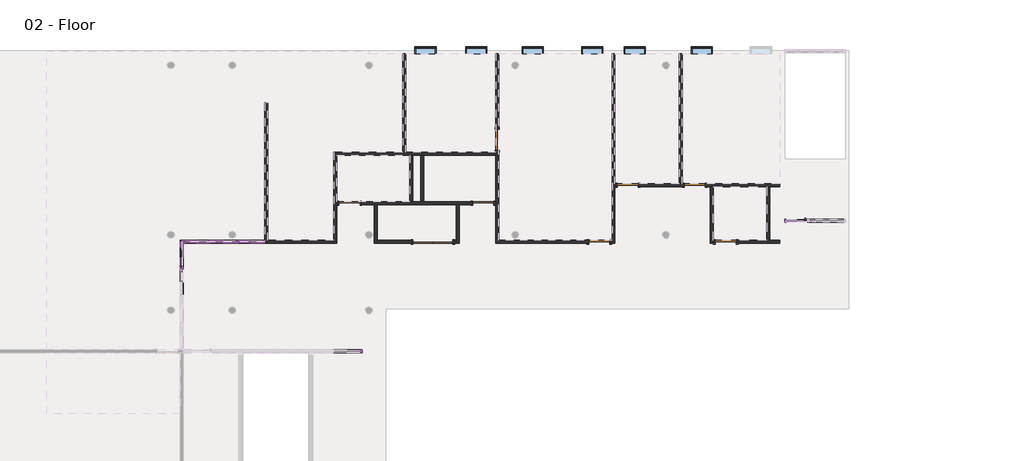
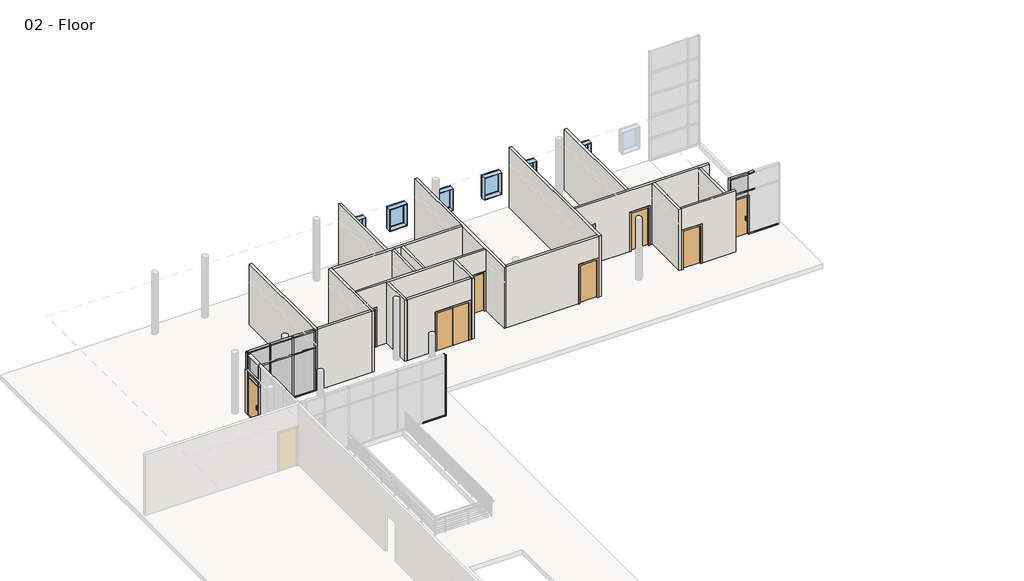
# One storey, part 3 of 5: 45 members, 19 walls, 12 plates, 10 doors, 6 windows.
"""IFC4 building model written with IfcOpenShell, lengths in millimetres."""

from ifc_helpers import new_model, si_unit, frame, origin, place, context, project, spatial, polyline, outline, extrude, faceted_brep, transform, mapped, element, save
from components import curtain_wall_sgl_glass_curtain_wall_sgl_glass_c2d4b377, curtain_wall_sgl_glass_curtain_wall_sgl_glass_8b7e7ef7, door_07ba55ef, door_a1797ceb, door_a3eb833a, member_47e31e63, member_f0fea5a5, member_ee409385, member_18e22e2d, member_9193c932, member_c617b399, member_69c8e218, member_a08f6adc, member_e80433b6, member_4904f910, member_6ef8dc49, member_309cb93c, member_6186cc23, member_410c6227, member_73c23c35, member_c327c56d, member_a50b3cda, member_bcb6a316, member_d3323a85, member_6be37683, member_5d67b9fc, member_0f16ceef, member_7712ce12, member_ba732fc4, system_panel_glazed_d847cfee, system_panel_glazed_a5fae1e5, system_panel_glazed_8c2c847a, system_panel_glazed_087d2106, system_panel_glazed_e676b032, system_panel_glazed_652e8fc4, system_panel_glazed_8dc8626f, system_panel_glazed_63e32c76, system_panel_glazed_72fe8651, system_panel_glazed_47952c94, system_panel_glazed_99e16266, window_dfee3f32

model = new_model("IFC4")

# Units and contexts
model_context = context("Model", 3, world=origin())
ifc_project = project(units=[si_unit("LENGTHUNIT", "METRE", prefix="MILLI")], contexts=[model_context])

# Site, building, storey
site = spatial("IfcSite", under=ifc_project)
building = spatial("IfcBuilding", under=site)
storey = spatial("IfcBuildingStorey", under=building, Name="02 - Floor", Elevation=3657.6)

# Doors
placement = place(None, origin())
curtain_wall_sgl_glass_curtain_wall_sgl_glass_shape = curtain_wall_sgl_glass_curtain_wall_sgl_glass_c2d4b377(model_context)
element("IfcDoor", 1, ObjectType="Curtain Wall Sgl Glass : Curtain Wall Sgl Glass", at=placement, inside=storey, context=model_context, shape_type="MappedRepresentation", body=[
    mapped(curtain_wall_sgl_glass_curtain_wall_sgl_glass_shape, transform((34925.9207476, 46523.2, 3657.6), x_axis=(-1.0, 0.0, 0.0), y_axis=(0.0, -1.0, 0.0), z_axis=(0.0, 0.0, 1.0))),
])
curtain_wall_sgl_glass_curtain_wall_sgl_glass_2_shape = curtain_wall_sgl_glass_curtain_wall_sgl_glass_8b7e7ef7(model_context)
element("IfcDoor", 2, ObjectType="Curtain Wall Sgl Glass : Curtain Wall Sgl Glass", at=placement, inside=storey, context=model_context, shape_type="MappedRepresentation", body=[
    mapped(curtain_wall_sgl_glass_curtain_wall_sgl_glass_2_shape, transform((8421.0207476, 44935.7, 3721.1), x_axis=(0.0, 1.0, 0.0), y_axis=(-1.0, 0.0, 0.0), z_axis=(0.0, 0.0, 1.0))),
])
door_shape = door_07ba55ef(model_context)
element("IfcDoor", 3, ObjectType="Double-Flush : 68\" x 84\"", at=placement, inside=storey, context=model_context, shape_type="MappedRepresentation", body=[
    mapped(door_shape, transform((19241.4207476, 45608.8, 3657.6), x_axis=(-1.0, 0.0, 0.0), y_axis=(0.0, -1.0, 0.0), z_axis=(0.0, 0.0, 1.0))),
])
door_2_shape = door_a1797ceb(model_context)
element("IfcDoor", 4, ObjectType="Single-Flush : 36\" x 84\"", at=placement, inside=storey, context=model_context, shape_type="MappedRepresentation", body=[
    mapped(door_2_shape, transform((21413.1207476, 47281.2000002, 3657.6), x_axis=(1.0, 0.0, 0.0), y_axis=(0.0, 1.0, 0.0), z_axis=(0.0, 0.0, 1.0))),
])
element("IfcDoor", 5, ObjectType="Single-Flush : 36\" x 84\"", at=placement, inside=storey, context=model_context, shape_type="MappedRepresentation", body=[
    mapped(door_2_shape, transform((26416.9207476, 45608.8, 3657.6), x_axis=(1.0, 0.0, 0.0), y_axis=(0.0, 1.0, 0.0), z_axis=(0.0, 0.0, 1.0))),
])
door_3_shape = door_a3eb833a(model_context)
element("IfcDoor", 6, ObjectType="Single-Flush : 36\" x 84\"", at=placement, inside=storey, context=model_context, shape_type="MappedRepresentation", body=[
    mapped(door_3_shape, transform((15647.3207476, 47281.2000002, 3657.6), x_axis=(-1.0, 0.0, 0.0), y_axis=(0.0, -1.0, 0.0), z_axis=(0.0, 0.0, 1.0))),
])
element("IfcDoor", 7, ObjectType="Single-Flush : 36\" x 84\"", at=placement, inside=storey, context=model_context, shape_type="MappedRepresentation", body=[
    mapped(door_3_shape, transform((22022.7207476, 50015.7, 3657.6), x_axis=(0.0, -1.0, 0.0), y_axis=(1.0, 0.0, 0.0), z_axis=(0.0, 0.0, 1.0))),
])
element("IfcDoor", 8, ObjectType="Single-Flush : 36\" x 84\"", at=placement, inside=storey, context=model_context, shape_type="MappedRepresentation", body=[
    mapped(door_3_shape, transform((27636.1207476, 48047.2, 3657.6), x_axis=(-1.0, 0.0, 0.0), y_axis=(0.0, -1.0, 0.0), z_axis=(0.0, 0.0, 1.0))),
])
element("IfcDoor", 9, ObjectType="Single-Flush : 36\" x 84\"", at=placement, inside=storey, context=model_context, shape_type="MappedRepresentation", body=[
    mapped(door_3_shape, transform((30531.7207476, 48047.2, 3657.6), x_axis=(-1.0, 0.0, 0.0), y_axis=(0.0, -1.0, 0.0), z_axis=(0.0, 0.0, 1.0))),
])
element("IfcDoor", 10, ObjectType="Single-Flush : 36\" x 84\"", at=placement, inside=storey, context=model_context, shape_type="MappedRepresentation", body=[
    mapped(door_3_shape, transform((31865.2207476, 45608.8, 3657.6), x_axis=(-1.0, 0.0, 0.0), y_axis=(0.0, -1.0, 0.0), z_axis=(0.0, 0.0, 1.0))),
])

# Members
member_shape = member_47e31e63(model_context)
element("IfcMember", 11, ObjectType="L Corner Mullion : 5\" x 5\" Corner", at=placement, inside=storey, context=model_context, shape_type="MappedRepresentation", body=[
    mapped(member_shape, transform((8421.0207476, 45608.8, 3657.6), x_axis=(-1.0, 0.0, 0.0), y_axis=(0.0, 1.0, 0.0), z_axis=(0.0, 0.0, -1.0))),
])
member_2_shape = member_f0fea5a5(model_context)
element("IfcMember", 12, ObjectType="Rectangular Mullion : 2.5\" x 5\" rectangular", at=placement, inside=storey, context=model_context, shape_type="MappedRepresentation", body=[
    mapped(member_2_shape, transform((10808.6207476, 45608.8, 3657.6), x_axis=(-1.0, 0.0, 0.0), y_axis=(0.0, 1.0, 0.0), z_axis=(0.0, 0.0, -1.0))),
])
element("IfcMember", 13, ObjectType="Rectangular Mullion : 2.5\" x 5\" rectangular", at=placement, inside=storey, context=model_context, shape_type="MappedRepresentation", body=[
    mapped(member_2_shape, transform((9614.8207476, 45608.8, 3657.6), x_axis=(-1.0, 0.0, 0.0), y_axis=(0.0, 1.0, 0.0), z_axis=(0.0, 0.0, -1.0))),
])
member_3_shape = member_ee409385(model_context)
element("IfcMember", 14, ObjectType="Rectangular Mullion : 2.5\" x 5\" rectangular", at=placement, inside=storey, context=model_context, shape_type="MappedRepresentation", body=[
    mapped(member_3_shape, transform((12002.4207476, 45608.8, 6096.0), x_axis=(1.0, 0.0, 0.0), y_axis=(0.0, 1.0, 0.0), z_axis=(0.0, 0.0, 1.0))),
])
member_4_shape = member_18e22e2d(model_context)
element("IfcMember", 15, ObjectType="Rectangular Mullion : 2.5\" x 5\" rectangular", at=placement, inside=storey, context=model_context, shape_type="MappedRepresentation", body=[
    mapped(member_4_shape, transform((10808.6207476, 45608.8, 6096.0), x_axis=(-1.0, 0.0, 0.0), y_axis=(0.0, 1.0, 0.0), z_axis=(0.0, 0.0, -1.0))),
])
element("IfcMember", 16, ObjectType="Rectangular Mullion : 2.5\" x 5\" rectangular", at=placement, inside=storey, context=model_context, shape_type="MappedRepresentation", body=[
    mapped(member_4_shape, transform((9614.8207476, 45608.8, 6096.0), x_axis=(-1.0, 0.0, 0.0), y_axis=(0.0, 1.0, 0.0), z_axis=(0.0, 0.0, -1.0))),
])
element("IfcMember", 17, ObjectType="Rectangular Mullion : 2.5\" x 5\" rectangular", at=placement, inside=storey, context=model_context, shape_type="MappedRepresentation", body=[
    mapped(member_4_shape, transform((8421.0207476, 44446.75, 6096.0), x_axis=(0.0, -1.0, 0.0), y_axis=(-1.0, 0.0, 0.0), z_axis=(0.0, 0.0, -1.0))),
])
element("IfcMember", 18, ObjectType="Rectangular Mullion : 2.5\" x 5\" rectangular", at=placement, inside=storey, context=model_context, shape_type="MappedRepresentation", body=[
    mapped(member_4_shape, transform((8421.0207476, 45424.65, 6096.0), x_axis=(0.0, -1.0, 0.0), y_axis=(-1.0, 0.0, 0.0), z_axis=(0.0, 0.0, -1.0))),
])
member_5_shape = member_9193c932(model_context)
element("IfcMember", 19, ObjectType="Rectangular Mullion : 2.5\" x 5\" rectangular", at=placement, inside=storey, context=model_context, shape_type="MappedRepresentation", body=[
    mapped(member_5_shape, transform((16188.9115197, 40897.1, 7061.2), x_axis=(1.0, 0.0, 0.0), y_axis=(0.0, 1.0, 0.0), z_axis=(0.0, 0.0, 1.0))),
])
element("IfcMember", 20, ObjectType="Rectangular Mullion : 2.5\" x 5\" rectangular", at=placement, inside=storey, context=model_context, shape_type="MappedRepresentation", body=[
    mapped(member_5_shape, transform((12002.4207476, 45608.8, 7061.2), x_axis=(1.0, 0.0, 0.0), y_axis=(0.0, 1.0, 0.0), z_axis=(0.0, 0.0, 1.0))),
])
element("IfcMember", 21, ObjectType="Rectangular Mullion : 2.5\" x 5\" rectangular", at=placement, inside=storey, context=model_context, shape_type="MappedRepresentation", body=[
    mapped(member_5_shape, transform((34405.2207476, 46523.2, 7061.2), x_axis=(-1.0, 0.0, 0.0), y_axis=(0.0, -1.0, 0.0), z_axis=(0.0, 0.0, 1.0))),
])
member_6_shape = member_c617b399(model_context)
element("IfcMember", 22, ObjectType="Rectangular Mullion : 2.5\" x 5\" rectangular", at=placement, inside=storey, context=model_context, shape_type="MappedRepresentation", body=[
    mapped(member_6_shape, transform((16125.4115197, 40897.1, 3657.6), x_axis=(0.0, 0.0, -1.0), y_axis=(0.0, 1.0, 0.0), z_axis=(1.0, 0.0, 0.0))),
])
member_7_shape = member_69c8e218(model_context)
element("IfcMember", 23, ObjectType="Rectangular Mullion : 2.5\" x 5\" rectangular", at=placement, inside=storey, context=model_context, shape_type="MappedRepresentation", body=[
    mapped(member_7_shape, transform((8484.5207476, 45608.8, 7061.2), x_axis=(0.0, 0.0, 1.0), y_axis=(0.0, 1.0, 0.0), z_axis=(-1.0, 0.0, 0.0))),
])
element("IfcMember", 24, ObjectType="Rectangular Mullion : 2.5\" x 5\" rectangular", at=placement, inside=storey, context=model_context, shape_type="MappedRepresentation", body=[
    mapped(member_7_shape, transform((10840.3707476, 45608.8, 7061.2), x_axis=(0.0, 0.0, 1.0), y_axis=(0.0, 1.0, 0.0), z_axis=(-1.0, 0.0, 0.0))),
])
element("IfcMember", 25, ObjectType="Rectangular Mullion : 2.5\" x 5\" rectangular", at=placement, inside=storey, context=model_context, shape_type="MappedRepresentation", body=[
    mapped(member_7_shape, transform((11938.9207476, 45608.8, 3657.6), x_axis=(0.0, 0.0, -1.0), y_axis=(0.0, 1.0, 0.0), z_axis=(1.0, 0.0, 0.0))),
])
element("IfcMember", 26, ObjectType="Rectangular Mullion : 2.5\" x 5\" rectangular", at=placement, inside=storey, context=model_context, shape_type="MappedRepresentation", body=[
    mapped(member_7_shape, transform((8421.0207476, 44415.0, 3657.6), x_axis=(0.0, 0.0, -1.0), y_axis=(-1.0, 0.0, 0.0), z_axis=(0.0, 1.0, 0.0))),
])
member_8_shape = member_a08f6adc(model_context)
element("IfcMember", 27, ObjectType="Rectangular Mullion : 2.5\" x 5\" rectangular", at=placement, inside=storey, context=model_context, shape_type="MappedRepresentation", body=[
    mapped(member_8_shape, transform((10776.8707476, 45608.8, 3657.6), x_axis=(0.0, 0.0, -1.0), y_axis=(0.0, 1.0, 0.0), z_axis=(1.0, 0.0, 0.0))),
])
member_9_shape = member_e80433b6(model_context)
element("IfcMember", 28, ObjectType="Rectangular Mullion : 2.5\" x 5\" rectangular", at=placement, inside=storey, context=model_context, shape_type="MappedRepresentation", body=[
    mapped(member_9_shape, transform((10840.3707476, 45608.8, 6096.0), x_axis=(0.0, 0.0, 1.0), y_axis=(0.0, 1.0, 0.0), z_axis=(-1.0, 0.0, 0.0))),
])
member_10_shape = member_4904f910(model_context)
element("IfcMember", 29, ObjectType="Rectangular Mullion : 2.5\" x 5\" rectangular", at=placement, inside=storey, context=model_context, shape_type="MappedRepresentation", body=[
    mapped(member_10_shape, transform((9646.5707476, 45608.8, 6096.0), x_axis=(0.0, 0.0, 1.0), y_axis=(0.0, 1.0, 0.0), z_axis=(-1.0, 0.0, 0.0))),
])
element("IfcMember", 30, ObjectType="Rectangular Mullion : 2.5\" x 5\" rectangular", at=placement, inside=storey, context=model_context, shape_type="MappedRepresentation", body=[
    mapped(member_8_shape, transform((9646.5707476, 45608.8, 7061.2), x_axis=(0.0, 0.0, 1.0), y_axis=(0.0, 1.0, 0.0), z_axis=(-1.0, 0.0, 0.0))),
])
element("IfcMember", 31, ObjectType="Rectangular Mullion : 2.5\" x 5\" rectangular", at=placement, inside=storey, context=model_context, shape_type="MappedRepresentation", body=[
    mapped(member_5_shape, transform((8421.0207476, 45608.8, 6096.0), x_axis=(-1.0, 0.0, 0.0), y_axis=(0.0, 1.0, 0.0), z_axis=(0.0, 0.0, -1.0))),
])
element("IfcMember", 32, ObjectType="Rectangular Mullion : 2.5\" x 5\" rectangular", at=placement, inside=storey, context=model_context, shape_type="MappedRepresentation", body=[
    mapped(member_5_shape, transform((8421.0207476, 45608.8, 7061.2), x_axis=(0.0, 1.0, 0.0), y_axis=(-1.0, 0.0, 0.0), z_axis=(0.0, 0.0, 1.0))),
])
member_11_shape = member_6ef8dc49(model_context)
element("IfcMember", 33, ObjectType="Rectangular Mullion : 2.5\" x 5\" rectangular", at=placement, inside=storey, context=model_context, shape_type="MappedRepresentation", body=[
    mapped(member_11_shape, transform((9583.0707476, 45608.8, 3657.6), x_axis=(0.0, 0.0, -1.0), y_axis=(0.0, 1.0, 0.0), z_axis=(1.0, 0.0, 0.0))),
])
member_12_shape = member_309cb93c(model_context)
element("IfcMember", 34, ObjectType="Rectangular Mullion : 2.5\" x 5\" rectangular", at=placement, inside=storey, context=model_context, shape_type="MappedRepresentation", body=[
    mapped(member_12_shape, transform((8548.0207476, 45608.8, 6096.0), x_axis=(0.0, 0.0, 1.0), y_axis=(0.0, 1.0, 0.0), z_axis=(-1.0, 0.0, 0.0))),
])
member_13_shape = member_6186cc23(model_context)
element("IfcMember", 35, ObjectType="Rectangular Mullion : 2.5\" x 5\" rectangular", at=placement, inside=storey, context=model_context, shape_type="MappedRepresentation", body=[
    mapped(member_13_shape, transform((35414.8707476, 46523.2, 3657.6), x_axis=(1.0, 0.0, 0.0), y_axis=(0.0, -1.0, 0.0), z_axis=(0.0, 0.0, -1.0))),
])
member_14_shape = member_410c6227(model_context)
element("IfcMember", 36, ObjectType="Rectangular Mullion : 2.5\" x 5\" rectangular", at=placement, inside=storey, context=model_context, shape_type="MappedRepresentation", body=[
    mapped(member_14_shape, transform((35383.1207476, 46523.2, 6096.0), x_axis=(0.0, 0.0, 1.0), y_axis=(0.0, -1.0, 0.0), z_axis=(1.0, 0.0, 0.0))),
])
member_15_shape = member_73c23c35(model_context)
element("IfcMember", 37, ObjectType="Rectangular Mullion : 2.5\" x 5\" rectangular", at=placement, inside=storey, context=model_context, shape_type="MappedRepresentation", body=[
    mapped(member_15_shape, transform((35383.1207476, 46523.2, 7061.2), x_axis=(0.0, 0.0, 1.0), y_axis=(0.0, -1.0, 0.0), z_axis=(1.0, 0.0, 0.0))),
])
member_16_shape = member_c327c56d(model_context)
element("IfcMember", 38, ObjectType="Rectangular Mullion : 2.5\" x 5\" rectangular", at=placement, inside=storey, context=model_context, shape_type="MappedRepresentation", body=[
    mapped(member_16_shape, transform((34405.2207476, 46523.2, 6096.0), x_axis=(-1.0, 0.0, 0.0), y_axis=(0.0, -1.0, 0.0), z_axis=(0.0, 0.0, 1.0))),
])
member_17_shape = member_a50b3cda(model_context)
element("IfcMember", 39, ObjectType="Rectangular Mullion : 2.5\" x 5\" rectangular", at=placement, inside=storey, context=model_context, shape_type="MappedRepresentation", body=[
    mapped(member_17_shape, transform((34405.2207476, 46523.2, 5822.95), x_axis=(-1.0, 0.0, 0.0), y_axis=(0.0, -1.0, 0.0), z_axis=(0.0, 0.0, 1.0))),
])
member_18_shape = member_bcb6a316(model_context)
element("IfcMember", 40, ObjectType="Rectangular Mullion : 2.5\" x 5\" rectangular", at=placement, inside=storey, context=model_context, shape_type="MappedRepresentation", body=[
    mapped(member_18_shape, transform((35726.0207476, 46523.2, 3657.6), x_axis=(0.0, 0.0, -1.0), y_axis=(0.0, -1.0, 0.0), z_axis=(-1.0, 0.0, 0.0))),
])
member_19_shape = member_d3323a85(model_context)
element("IfcMember", 41, ObjectType="Rectangular Mullion : 2.5\" x 5\" rectangular", at=placement, inside=storey, context=model_context, shape_type="MappedRepresentation", body=[
    mapped(member_19_shape, transform((35446.6207476, 46523.2, 3657.6), x_axis=(0.0, 0.0, -1.0), y_axis=(0.0, -1.0, 0.0), z_axis=(-1.0, 0.0, 0.0))),
])
element("IfcMember", 42, ObjectType="Rectangular Mullion : 2.5\" x 5\" rectangular", at=placement, inside=storey, context=model_context, shape_type="MappedRepresentation", body=[
    mapped(member_19_shape, transform((35726.0207476, 46523.2, 7061.2), x_axis=(0.0, 0.0, 1.0), y_axis=(0.0, -1.0, 0.0), z_axis=(1.0, 0.0, 0.0))),
])
member_20_shape = member_6be37683(model_context)
element("IfcMember", 43, ObjectType="Rectangular Mullion : 2.5\" x 5\" rectangular", at=placement, inside=storey, context=model_context, shape_type="MappedRepresentation", body=[
    mapped(member_20_shape, transform((35726.0207476, 46523.2, 6096.0), x_axis=(0.0, 0.0, 1.0), y_axis=(0.0, -1.0, 0.0), z_axis=(1.0, 0.0, 0.0))),
])
element("IfcMember", 44, ObjectType="Rectangular Mullion : 2.5\" x 5\" rectangular", at=placement, inside=storey, context=model_context, shape_type="MappedRepresentation", body=[
    mapped(member_14_shape, transform((8421.0207476, 44478.5, 6096.0), x_axis=(0.0, 0.0, 1.0), y_axis=(-1.0, 0.0, 0.0), z_axis=(0.0, -1.0, 0.0))),
])
element("IfcMember", 45, ObjectType="Rectangular Mullion : 2.5\" x 5\" rectangular", at=placement, inside=storey, context=model_context, shape_type="MappedRepresentation", body=[
    mapped(member_14_shape, transform((8421.0207476, 44478.5, 5822.95), x_axis=(0.0, 0.0, 1.0), y_axis=(-1.0, 0.0, 0.0), z_axis=(0.0, -1.0, 0.0))),
])
element("IfcMember", 46, ObjectType="Rectangular Mullion : 2.5\" x 5\" rectangular", at=placement, inside=storey, context=model_context, shape_type="MappedRepresentation", body=[
    mapped(member_13_shape, transform((8421.0207476, 44446.75, 3657.6), x_axis=(0.0, -1.0, 0.0), y_axis=(-1.0, 0.0, 0.0), z_axis=(0.0, 0.0, -1.0))),
])
element("IfcMember", 47, ObjectType="Rectangular Mullion : 2.5\" x 5\" rectangular", at=placement, inside=storey, context=model_context, shape_type="MappedRepresentation", body=[
    mapped(member_13_shape, transform((8421.0207476, 45424.65, 3657.6), x_axis=(0.0, -1.0, 0.0), y_axis=(-1.0, 0.0, 0.0), z_axis=(0.0, 0.0, -1.0))),
])
member_21_shape = member_5d67b9fc(model_context)
element("IfcMember", 48, ObjectType="Rectangular Mullion : 2.5\" x 5\" rectangular", at=placement, inside=storey, context=model_context, shape_type="MappedRepresentation", body=[
    mapped(member_21_shape, transform((8421.0207476, 45424.65, 5822.95), x_axis=(0.0, -1.0, 0.0), y_axis=(-1.0, 0.0, 0.0), z_axis=(0.0, 0.0, -1.0))),
])
element("IfcMember", 49, ObjectType="Rectangular Mullion : 2.5\" x 5\" rectangular", at=placement, inside=storey, context=model_context, shape_type="MappedRepresentation", body=[
    mapped(member_21_shape, transform((8421.0207476, 44446.75, 5822.95), x_axis=(0.0, -1.0, 0.0), y_axis=(-1.0, 0.0, 0.0), z_axis=(0.0, 0.0, -1.0))),
])
element("IfcMember", 50, ObjectType="Rectangular Mullion : 2.5\" x 5\" rectangular", at=placement, inside=storey, context=model_context, shape_type="MappedRepresentation", body=[
    mapped(member_16_shape, transform((16188.9115197, 40897.1, 6096.0), x_axis=(1.0, 0.0, 0.0), y_axis=(0.0, 1.0, 0.0), z_axis=(0.0, 0.0, 1.0))),
])
element("IfcMember", 51, ObjectType="Rectangular Mullion : 2.5\" x 5\" rectangular", at=placement, inside=storey, context=model_context, shape_type="MappedRepresentation", body=[
    mapped(member_17_shape, transform((16188.9115197, 40897.1, 5822.95), x_axis=(1.0, 0.0, 0.0), y_axis=(0.0, 1.0, 0.0), z_axis=(0.0, 0.0, 1.0))),
])
member_22_shape = member_0f16ceef(model_context)
element("IfcMember", 52, ObjectType="Rectangular Mullion : 2.5\" x 5\" rectangular", at=placement, inside=storey, context=model_context, shape_type="MappedRepresentation", body=[
    mapped(member_22_shape, transform((8421.0207476, 45456.4, 6096.0), x_axis=(0.0, 0.0, 1.0), y_axis=(-1.0, 0.0, 0.0), z_axis=(0.0, -1.0, 0.0))),
])
member_23_shape = member_7712ce12(model_context)
element("IfcMember", 53, ObjectType="Rectangular Mullion : 2.5\" x 5\" rectangular", at=placement, inside=storey, context=model_context, shape_type="MappedRepresentation", body=[
    mapped(member_23_shape, transform((8421.0207476, 45456.4, 7061.2), x_axis=(0.0, 0.0, 1.0), y_axis=(-1.0, 0.0, 0.0), z_axis=(0.0, -1.0, 0.0))),
])
element("IfcMember", 54, ObjectType="Rectangular Mullion : 2.5\" x 5\" rectangular", at=placement, inside=storey, context=model_context, shape_type="MappedRepresentation", body=[
    mapped(member_15_shape, transform((8421.0207476, 45392.9, 3657.6), x_axis=(0.0, 0.0, -1.0), y_axis=(-1.0, 0.0, 0.0), z_axis=(0.0, 1.0, 0.0))),
])
member_24_shape = member_ba732fc4(model_context)
element("IfcMember", 55, ObjectType="Rectangular Mullion : 2.5\" x 5\" rectangular", at=placement, inside=storey, context=model_context, shape_type="MappedRepresentation", body=[
    mapped(member_24_shape, transform((8421.0207476, 45481.8, 3657.6), x_axis=(0.0, 0.0, -1.0), y_axis=(-1.0, 0.0, 0.0), z_axis=(0.0, 1.0, 0.0))),
])

# Plates
system_panel_glazed_shape = system_panel_glazed_d847cfee(model_context)
element("IfcPlate", 56, ObjectType="System Panel : Glazed", at=placement, inside=storey, context=model_context, shape_type="MappedRepresentation", body=[
    mapped(system_panel_glazed_shape, transform((11389.6457476, 45608.8, 3721.1), x_axis=(-1.0, 0.0, 0.0), y_axis=(0.0, -1.0, 0.0), z_axis=(0.0, 0.0, 1.0))),
])
system_panel_glazed_2_shape = system_panel_glazed_a5fae1e5(model_context)
element("IfcPlate", 57, ObjectType="System Panel : Glazed", at=placement, inside=storey, context=model_context, shape_type="MappedRepresentation", body=[
    mapped(system_panel_glazed_2_shape, transform((10211.7207476, 45608.8, 3721.1), x_axis=(-1.0, 0.0, 0.0), y_axis=(0.0, -1.0, 0.0), z_axis=(0.0, 0.0, 1.0))),
])
system_panel_glazed_3_shape = system_panel_glazed_8c2c847a(model_context)
element("IfcPlate", 58, ObjectType="System Panel : Glazed", at=placement, inside=storey, context=model_context, shape_type="MappedRepresentation", body=[
    mapped(system_panel_glazed_3_shape, transform((11389.6457476, 45608.8, 6127.75), x_axis=(-1.0, 0.0, 0.0), y_axis=(0.0, -1.0, 0.0), z_axis=(0.0, 0.0, 1.0))),
])
element("IfcPlate", 59, ObjectType="System Panel : Glazed", at=placement, inside=storey, context=model_context, shape_type="MappedRepresentation", body=[
    mapped(system_panel_glazed_3_shape, transform((9033.7957476, 45608.8, 6127.75), x_axis=(-1.0, 0.0, 0.0), y_axis=(0.0, -1.0, 0.0), z_axis=(0.0, 0.0, 1.0))),
])
system_panel_glazed_4_shape = system_panel_glazed_087d2106(model_context)
element("IfcPlate", 60, ObjectType="System Panel : Glazed", at=placement, inside=storey, context=model_context, shape_type="MappedRepresentation", body=[
    mapped(system_panel_glazed_4_shape, transform((10211.7207476, 45608.8, 6127.75), x_axis=(-1.0, 0.0, 0.0), y_axis=(0.0, -1.0, 0.0), z_axis=(0.0, 0.0, 1.0))),
])
system_panel_glazed_5_shape = system_panel_glazed_e676b032(model_context)
element("IfcPlate", 61, ObjectType="System Panel : Glazed", at=placement, inside=storey, context=model_context, shape_type="MappedRepresentation", body=[
    mapped(system_panel_glazed_5_shape, transform((9065.5457476, 45608.8, 3721.1), x_axis=(-1.0, 0.0, 0.0), y_axis=(0.0, -1.0, 0.0), z_axis=(0.0, 0.0, 1.0))),
])
system_panel_glazed_6_shape = system_panel_glazed_652e8fc4(model_context)
element("IfcPlate", 62, ObjectType="System Panel : Glazed", at=placement, inside=storey, context=model_context, shape_type="MappedRepresentation", body=[
    mapped(system_panel_glazed_6_shape, transform((34925.9207476, 46523.2, 6127.75), x_axis=(1.0, 0.0, 0.0), y_axis=(0.0, 1.0, 0.0), z_axis=(0.0, 0.0, 1.0))),
])
system_panel_glazed_7_shape = system_panel_glazed_8dc8626f(model_context)
element("IfcPlate", 63, ObjectType="System Panel : Glazed", at=placement, inside=storey, context=model_context, shape_type="MappedRepresentation", body=[
    mapped(system_panel_glazed_7_shape, transform((34925.9207476, 46523.2, 5854.7), x_axis=(1.0, 0.0, 0.0), y_axis=(0.0, 1.0, 0.0), z_axis=(0.0, 0.0, 1.0))),
])
system_panel_glazed_8_shape = system_panel_glazed_63e32c76(model_context)
element("IfcPlate", 64, ObjectType="System Panel : Glazed", at=placement, inside=storey, context=model_context, shape_type="MappedRepresentation", body=[
    mapped(system_panel_glazed_8_shape, transform((8421.0207476, 44935.7, 6127.75), x_axis=(0.0, -1.0, 0.0), y_axis=(1.0, 0.0, 0.0), z_axis=(0.0, 0.0, 1.0))),
])
system_panel_glazed_9_shape = system_panel_glazed_72fe8651(model_context)
element("IfcPlate", 65, ObjectType="System Panel : Glazed", at=placement, inside=storey, context=model_context, shape_type="MappedRepresentation", body=[
    mapped(system_panel_glazed_9_shape, transform((8421.0207476, 44935.7, 5854.7), x_axis=(0.0, -1.0, 0.0), y_axis=(1.0, 0.0, 0.0), z_axis=(0.0, 0.0, 1.0))),
])
system_panel_glazed_10_shape = system_panel_glazed_47952c94(model_context)
element("IfcPlate", 66, ObjectType="System Panel : Glazed", at=placement, inside=storey, context=model_context, shape_type="MappedRepresentation", body=[
    mapped(system_panel_glazed_10_shape, transform((8421.0207476, 45500.85, 6127.75), x_axis=(0.0, -1.0, 0.0), y_axis=(1.0, 0.0, 0.0), z_axis=(0.0, 0.0, 1.0))),
])
system_panel_glazed_11_shape = system_panel_glazed_99e16266(model_context)
element("IfcPlate", 67, ObjectType="System Panel : Glazed", at=placement, inside=storey, context=model_context, shape_type="MappedRepresentation", body=[
    mapped(system_panel_glazed_11_shape, transform((8421.0207476, 45469.1, 3721.1), x_axis=(0.0, 1.0, 0.0), y_axis=(-1.0, 0.0, 0.0), z_axis=(0.0, 0.0, 1.0))),
])

# Walls
element("IfcWall", 68, ObjectType="Generic - 5\"", at=placement, inside=storey, context=model_context, shape_type="Brep", body=[
    faceted_brep([(31408.0207476, 45672.3, 5791.2), (31408.0207476, 45672.3, 3657.6), (31319.1207476, 45672.3, 3657.6), (31319.1207476, 45672.3, 7061.2), (33630.5207476, 45672.3, 7061.2), (33757.5207476, 45672.3, 7061.2), (34202.0207476, 45672.3, 7061.2), (34202.0207476, 45672.3, 3657.6), (33757.5207476, 45672.3, 3657.6), (33630.5207476, 45672.3, 3657.6), (32322.4207476, 45672.3, 3657.6), (32322.4207476, 45672.3, 5791.2), (31319.1207476, 45545.3, 3657.6), (31408.0207476, 45545.3, 3657.6), (31408.0207476, 45545.3, 5791.2), (32322.4207476, 45545.3, 5791.2), (32322.4207476, 45545.3, 3657.6), (34202.0207476, 45545.3, 3657.6), (34202.0207476, 45545.3, 7061.2), (31319.1207476, 45545.3, 7061.2)], [[[0, 1, 2, 3, 4, 5, 6, 7, 8, 9, 10, 11]], [[12, 13, 14, 15, 16, 17, 18, 19]], [[2, 1, 13, 12]], [[10, 9, 8, 7, 17, 16]], [[3, 2, 12, 19]], [[7, 6, 18, 17]], [[6, 5, 4, 3, 19, 18]], [[14, 13, 1, 0]], [[15, 14, 0, 11]], [[16, 15, 11, 10]]]),
])
element("IfcWall", 69, ObjectType="Generic - 5\"", at=placement, inside=storey, context=model_context, shape_type="Brep", body=[
    faceted_brep([(14974.2207476, 49478.3000002, 3657.6), (14974.2207476, 45672.3, 3657.6), (14974.2207476, 45545.3, 3657.6), (14974.2207476, 45545.3, 7061.2), (14974.2207476, 45672.3, 7061.2), (14974.2207476, 49478.3000002, 7061.2), (15101.2207476, 49478.3000002, 3657.6), (15101.2207476, 49478.3000002, 7061.2), (15101.2207476, 49351.3000002, 7061.2), (15101.2207476, 47344.7000002, 7061.2), (15101.2207476, 47217.7000002, 7061.2), (15101.2207476, 45545.3, 7061.2), (15101.2207476, 45545.3, 3657.6), (15101.2207476, 47217.7000002, 3657.6), (15101.2207476, 47344.7000002, 3657.6), (15101.2207476, 49351.3000002, 3657.6)], [[[0, 1, 2, 3, 4, 5]], [[6, 7, 8, 9, 10, 11, 12, 13, 14, 15]], [[2, 1, 0, 6, 15, 14, 13, 12]], [[0, 5, 7, 6]], [[3, 2, 12, 11]], [[5, 4, 3, 11, 10, 9, 8, 7]]]),
])
element("IfcWall", 70, ObjectType="Generic - 5\"", at=placement, inside=storey, context=model_context, shape_type="Brep", body=[
    faceted_brep([(22086.2207476, 45545.3, 3657.6), (22086.2207476, 45672.3, 3657.6), (22086.2207476, 49558.5, 3657.6), (22086.2207476, 49558.5, 5791.2), (22086.2207476, 50472.9, 5791.2), (22086.2207476, 50472.9, 3657.6), (22086.2207476, 53724.1, 3657.6), (22086.2207476, 53724.1, 7061.2), (22086.2207476, 45672.3, 7061.2), (22086.2207476, 45545.3, 7061.2), (21959.2207476, 49558.5, 5791.2), (21959.2207476, 49558.5, 3657.6), (21959.2207476, 49478.3000002, 3657.6), (21959.2207476, 49351.3000002, 3657.6), (21959.2207476, 47344.7000002, 3657.6), (21959.2207476, 47217.7000002, 3657.6), (21959.2207476, 45545.3, 3657.6), (21959.2207476, 45545.3, 7061.2), (21959.2207476, 47217.7000002, 7061.2), (21959.2207476, 47344.7000002, 7061.2), (21959.2207476, 49351.3000002, 7061.2), (21959.2207476, 49478.3000002, 7061.2), (21959.2207476, 53724.1, 7061.2), (21959.2207476, 53724.1, 3657.6), (21959.2207476, 50472.9, 3657.6), (21959.2207476, 50472.9, 5791.2)], [[[0, 1, 2, 3, 4, 5, 6, 7, 8, 9]], [[10, 11, 12, 13, 14, 15, 16, 17, 18, 19, 20, 21, 22, 23, 24, 25]], [[16, 15, 14, 13, 12, 11, 2, 1, 0]], [[24, 23, 6, 5]], [[0, 9, 17, 16]], [[7, 6, 23, 22]], [[9, 8, 7, 22, 21, 20, 19, 18, 17]], [[3, 2, 11, 10]], [[4, 3, 10, 25]], [[5, 4, 25, 24]]]),
])
element("IfcWall", 71, ObjectType="Generic - 5\"", at=placement, inside=storey, context=model_context, shape_type="Brep", body=[
    faceted_brep([(27090.0207476, 45545.3, 3657.6), (27090.0207476, 47983.7, 3657.6), (27090.0207476, 48110.7, 3657.6), (27090.0207476, 53724.1, 3657.6), (27090.0207476, 53724.1, 7061.2), (27090.0207476, 48110.7, 7061.2), (27090.0207476, 47983.7, 7061.2), (27090.0207476, 45545.3, 7061.2), (26963.0207476, 45545.3, 3657.6), (26963.0207476, 45545.3, 7061.2), (26963.0207476, 45672.3, 7061.2), (26963.0207476, 53724.1, 7061.2), (26963.0207476, 53724.1, 3657.6), (26963.0207476, 45672.3, 3657.6)], [[[0, 1, 2, 3, 4, 5, 6, 7]], [[8, 9, 10, 11, 12, 13]], [[3, 2, 1, 0, 8, 13, 12]], [[0, 7, 9, 8]], [[4, 3, 12, 11]], [[7, 6, 5, 4, 11, 10, 9]]]),
])
element("IfcWall", 72, ObjectType="Generic - 5\"", at=placement, inside=storey, context=model_context, shape_type="SweptSolid", body=[
    extrude(outline(polyline([(29985.6207476, 53724.1), (29985.6207476, 48110.7), (29858.6207476, 48110.7), (29858.6207476, 53724.1), (29985.6207476, 53724.1)])), frame((0.0, 0.0, 3657.6), z_axis=(0.0, 0.0, 1.0), x_axis=(1.0, 0.0, 0.0)), (0.0, 0.0, 1.0), 3403.6),
])
element("IfcWall", 73, ObjectType="Generic - 5\"", at=placement, inside=storey, context=model_context, shape_type="Brep", body=[
    faceted_brep([(30074.5207476, 48110.7, 5791.2), (30074.5207476, 48110.7, 3657.6), (29985.6207476, 48110.7, 3657.6), (29858.6207476, 48110.7, 3657.6), (28093.3207476, 48110.7, 3657.6), (28093.3207476, 48110.7, 5791.2), (27178.9207476, 48110.7, 5791.2), (27178.9207476, 48110.7, 3657.6), (27090.0207476, 48110.7, 3657.6), (27090.0207476, 48110.7, 7061.2), (29858.6207476, 48110.7, 7061.2), (29985.6207476, 48110.7, 7061.2), (34202.0207476, 48110.7, 7061.2), (34202.0207476, 48110.7, 3657.6), (30988.9207476, 48110.7, 3657.6), (30988.9207476, 48110.7, 5791.2), (28093.3207476, 47983.7, 3657.6), (30074.5207476, 47983.7, 3657.6), (30074.5207476, 47983.7, 5791.2), (30988.9207476, 47983.7, 5791.2), (30988.9207476, 47983.7, 3657.6), (31192.1207476, 47983.7, 3657.6), (31319.1207476, 47983.7, 3657.6), (33630.5207476, 47983.7, 3657.6), (33757.5207476, 47983.7, 3657.6), (34202.0207476, 47983.7, 3657.6), (34202.0207476, 47983.7, 7061.2), (33757.5207476, 47983.7, 7061.2), (33630.5207476, 47983.7, 7061.2), (31319.1207476, 47983.7, 7061.2), (31192.1207476, 47983.7, 7061.2), (27090.0207476, 47983.7, 7061.2), (27090.0207476, 47983.7, 3657.6), (27178.9207476, 47983.7, 3657.6), (27178.9207476, 47983.7, 5791.2), (28093.3207476, 47983.7, 5791.2)], [[[0, 1, 2, 3, 4, 5, 6, 7, 8, 9, 10, 11, 12, 13, 14, 15]], [[16, 17, 18, 19, 20, 21, 22, 23, 24, 25, 26, 27, 28, 29, 30, 31, 32, 33, 34, 35]], [[8, 7, 33, 32]], [[14, 13, 25, 24, 23, 22, 21, 20]], [[4, 3, 2, 1, 17, 16]], [[13, 12, 26, 25]], [[9, 8, 32, 31]], [[34, 33, 7, 6]], [[35, 34, 6, 5]], [[16, 35, 5, 4]], [[18, 17, 1, 0]], [[19, 18, 0, 15]], [[20, 19, 15, 14]], [[12, 11, 10, 9, 31, 30, 29, 28, 27, 26]]]),
])
element("IfcWall", 74, ObjectType="Generic - 5\"", at=placement, inside=storey, context=model_context, shape_type="SweptSolid", body=[
    extrude(outline(polyline([(33757.5207476, 47983.7), (33757.5207476, 45672.3), (33630.5207476, 45672.3), (33630.5207476, 47983.7), (33757.5207476, 47983.7)])), frame((0.0, 0.0, 3657.6), z_axis=(0.0, 0.0, 1.0), x_axis=(1.0, 0.0, 0.0)), (0.0, 0.0, 1.0), 3403.6),
])
element("IfcWall", 75, ObjectType="Generic - 5\"", at=placement, inside=storey, context=model_context, shape_type="Brep", body=[
    faceted_brep([(31319.1207476, 45545.3, 3657.6), (31319.1207476, 45672.3, 3657.6), (31319.1207476, 47983.7, 3657.6), (31319.1207476, 47983.7, 7061.2), (31319.1207476, 45672.3, 7061.2), (31319.1207476, 45545.3, 7061.2), (31192.1207476, 45545.3, 3657.6), (31192.1207476, 45545.3, 7061.2), (31192.1207476, 47983.7, 7061.2), (31192.1207476, 47983.7, 3657.6)], [[[0, 1, 2, 3, 4, 5]], [[6, 7, 8, 9]], [[2, 1, 0, 6, 9]], [[3, 2, 9, 8]], [[0, 5, 7, 6]], [[5, 4, 3, 8, 7]]]),
])
element("IfcWall", 76, ObjectType="Generic - 5\"", at=placement, inside=storey, context=model_context, shape_type="Brep", body=[
    faceted_brep([(16714.1207476, 47217.7000002, 3657.6), (16714.1207476, 45545.3, 3657.6), (16714.1207476, 45545.3, 7061.2), (16714.1207476, 47217.7000002, 7061.2), (16841.1207476, 47217.7000002, 3657.6), (16841.1207476, 47217.7000002, 7061.2), (16841.1207476, 45672.3, 7061.2), (16841.1207476, 45545.3, 7061.2), (16841.1207476, 45545.3, 3657.6), (16841.1207476, 45672.3, 3657.6)], [[[0, 1, 2, 3]], [[4, 5, 6, 7, 8, 9]], [[1, 0, 4, 9, 8]], [[0, 3, 5, 4]], [[2, 1, 8, 7]], [[3, 2, 7, 6, 5]]]),
])
element("IfcWall", 77, ObjectType="Generic - 5\"", at=placement, inside=storey, context=model_context, shape_type="Brep", body=[
    faceted_brep([(20244.7207476, 47217.7000002, 3657.6), (20244.7207476, 45672.3, 3657.6), (20244.7207476, 45545.3, 3657.6), (20244.7207476, 45545.3, 7061.2), (20244.7207476, 45672.3, 7061.2), (20244.7207476, 47217.7000002, 7061.2), (20371.7207476, 47217.7000002, 3657.6), (20371.7207476, 47217.7000002, 7061.2), (20371.7207476, 45545.3, 7061.2), (20371.7207476, 45545.3, 3657.6)], [[[0, 1, 2, 3, 4, 5]], [[6, 7, 8, 9]], [[2, 1, 0, 6, 9]], [[3, 2, 9, 8]], [[0, 5, 7, 6]], [[5, 4, 3, 8, 7]]]),
])
element("IfcWall", 78, ObjectType="Generic - 5\"", at=placement, inside=storey, context=model_context, shape_type="SweptSolid", body=[
    extrude(outline(polyline([(17946.0207476, 49478.3000002), (17946.0207476, 53724.1), (18073.0207476, 53724.1), (18073.0207476, 49478.3000002), (17946.0207476, 49478.3000002)])), frame((0.0, 0.0, 3657.6), z_axis=(0.0, 0.0, 1.0), x_axis=(1.0, 0.0, 0.0)), (0.0, 0.0, 1.0), 3403.6),
])
element("IfcWall", 79, ObjectType="Generic - 5\"", at=placement, inside=storey, context=model_context, shape_type="Brep", body=[
    faceted_brep([(21959.2207476, 49478.3000002, 3657.6), (18073.0207476, 49478.3000002, 3657.6), (17946.0207476, 49478.3000002, 3657.6), (15101.2207476, 49478.3000002, 3657.6), (15101.2207476, 49478.3000002, 7061.2), (17946.0207476, 49478.3000002, 7061.2), (18073.0207476, 49478.3000002, 7061.2), (21959.2207476, 49478.3000002, 7061.2), (21959.2207476, 49351.3000002, 3657.6), (21959.2207476, 49351.3000002, 7061.2), (18847.7207476, 49351.3000002, 7061.2), (18720.7207476, 49351.3000002, 7061.2), (18365.1207476, 49351.3000002, 7061.2), (18238.1207476, 49351.3000002, 7061.2), (15101.2207476, 49351.3000002, 7061.2), (15101.2207476, 49351.3000002, 3657.6), (18238.1207476, 49351.3000002, 3657.6), (18365.1207476, 49351.3000002, 3657.6), (18720.7207476, 49351.3000002, 3657.6), (18847.7207476, 49351.3000002, 3657.6)], [[[0, 1, 2, 3, 4, 5, 6, 7]], [[8, 9, 10, 11, 12, 13, 14, 15, 16, 17, 18, 19]], [[3, 2, 1, 0, 8, 19, 18, 17, 16, 15]], [[0, 7, 9, 8]], [[4, 3, 15, 14]], [[7, 6, 5, 4, 14, 13, 12, 11, 10, 9]]]),
])
element("IfcWall", 80, ObjectType="Generic - 5\"", at=placement, inside=storey, context=model_context, shape_type="Brep", body=[
    faceted_brep([(12002.4207476, 51599.2000002, 3657.6), (12002.4207476, 45545.3, 3657.6), (12002.4207476, 45545.3, 7061.2), (12002.4207476, 51599.2000002, 7061.2), (12129.4207476, 51599.2000002, 3657.6), (12129.4207476, 51599.2000002, 7061.2), (12129.4207476, 45672.3, 7061.2), (12129.4207476, 45545.3, 7061.2), (12129.4207476, 45545.3, 3657.6), (12129.4207476, 45672.3, 3657.6)], [[[0, 1, 2, 3]], [[4, 5, 6, 7, 8, 9]], [[1, 0, 4, 9, 8]], [[0, 3, 5, 4]], [[2, 1, 8, 7]], [[3, 2, 7, 6, 5]]]),
])
element("IfcWall", 81, ObjectType="Generic - 5\"", at=placement, inside=storey, context=model_context, shape_type="Brep", body=[
    faceted_brep([(21959.2207476, 47344.7000002, 3657.6), (21870.3207476, 47344.7000002, 3657.6), (21870.3207476, 47344.7000002, 5791.2), (20955.9207476, 47344.7000002, 5791.2), (20955.9207476, 47344.7000002, 3657.6), (18847.7207476, 47344.7000002, 3657.6), (18720.7207476, 47344.7000002, 3657.6), (18365.1207476, 47344.7000002, 3657.6), (18238.1207476, 47344.7000002, 3657.6), (16104.5207476, 47344.7000002, 3657.6), (16104.5207476, 47344.7000002, 5791.2), (15190.1207476, 47344.7000002, 5791.2), (15190.1207476, 47344.7000002, 3657.6), (15101.2207476, 47344.7000002, 3657.6), (15101.2207476, 47344.7000002, 7061.2), (18238.1207476, 47344.7000002, 7061.2), (18365.1207476, 47344.7000002, 7061.2), (18720.7207476, 47344.7000002, 7061.2), (18847.7207476, 47344.7000002, 7061.2), (21959.2207476, 47344.7000002, 7061.2), (21870.3207476, 47217.7000002, 5791.2), (21870.3207476, 47217.7000002, 3657.6), (21959.2207476, 47217.7000002, 3657.6), (21959.2207476, 47217.7000002, 7061.2), (20371.7207476, 47217.7000002, 7061.2), (20244.7207476, 47217.7000002, 7061.2), (16841.1207476, 47217.7000002, 7061.2), (16714.1207476, 47217.7000002, 7061.2), (15101.2207476, 47217.7000002, 7061.2), (15101.2207476, 47217.7000002, 3657.6), (15190.1207476, 47217.7000002, 3657.6), (15190.1207476, 47217.7000002, 5791.2), (16104.5207476, 47217.7000002, 5791.2), (16104.5207476, 47217.7000002, 3657.6), (16714.1207476, 47217.7000002, 3657.6), (16841.1207476, 47217.7000002, 3657.6), (20244.7207476, 47217.7000002, 3657.6), (20371.7207476, 47217.7000002, 3657.6), (20955.9207476, 47217.7000002, 3657.6), (20955.9207476, 47217.7000002, 5791.2)], [[[0, 1, 2, 3, 4, 5, 6, 7, 8, 9, 10, 11, 12, 13, 14, 15, 16, 17, 18, 19]], [[20, 21, 22, 23, 24, 25, 26, 27, 28, 29, 30, 31, 32, 33, 34, 35, 36, 37, 38, 39]], [[13, 12, 30, 29]], [[22, 21, 1, 0]], [[38, 37, 36, 35, 34, 33, 9, 8, 7, 6, 5, 4]], [[14, 13, 29, 28]], [[0, 19, 23, 22]], [[19, 18, 17, 16, 15, 14, 28, 27, 26, 25, 24, 23]], [[31, 30, 12, 11]], [[32, 31, 11, 10]], [[33, 32, 10, 9]], [[2, 1, 21, 20]], [[3, 2, 20, 39]], [[4, 3, 39, 38]]]),
])
element("IfcWall", 82, ObjectType="Generic - 5\"", at=placement, inside=storey, context=model_context, shape_type="SweptSolid", body=[
    extrude(outline(polyline([(18238.1207476, 47344.7000002), (18238.1207476, 49351.3000002), (18365.1207476, 49351.3000002), (18365.1207476, 47344.7000002), (18238.1207476, 47344.7000002)])), frame((0.0, 0.0, 3657.6), z_axis=(0.0, 0.0, 1.0), x_axis=(1.0, 0.0, 0.0)), (0.0, 0.0, 1.0), 3403.6),
])
element("IfcWall", 83, ObjectType="Generic - 5\"", at=placement, inside=storey, context=model_context, shape_type="SweptSolid", body=[
    extrude(outline(polyline([(18720.7207476, 47344.7000002), (18720.7207476, 49351.3000002), (18847.7207476, 49351.3000002), (18847.7207476, 47344.7000002), (18720.7207476, 47344.7000002)])), frame((0.0, 0.0, 3657.6), z_axis=(0.0, 0.0, 1.0), x_axis=(1.0, 0.0, 0.0)), (0.0, 0.0, 1.0), 3403.6),
])
element("IfcWall", 84, ObjectType="Generic - 5\"", at=placement, inside=storey, context=model_context, shape_type="SweptSolid", body=[
    extrude(outline(polyline([(5791.2, 26874.1207476), (3657.6, 26874.1207476), (3657.6, 26963.0207476), (7061.2, 26963.0207476), (7061.2, 22086.2207476), (3657.6, 22086.2207476), (3657.6, 25959.7207476), (5791.2, 25959.7207476), (5791.2, 26874.1207476)])), frame((0.0, 45545.3, 0.0), z_axis=(0.0, 1.0, 0.0), x_axis=(0.0, 0.0, 1.0)), (0.0, 0.0, 1.0), 127.0),
])
element("IfcWall", 85, ObjectType="Generic - 5\"", at=placement, inside=storey, context=model_context, shape_type="SweptSolid", body=[
    extrude(outline(polyline([(7061.2, 16841.1207476), (3657.6, 16841.1207476), (3657.6, 18377.8207476), (5791.2, 18377.8207476), (5791.2, 20105.0207476), (3657.6, 20105.0207476), (3657.6, 20244.7207476), (7061.2, 20244.7207476), (7061.2, 16841.1207476)])), frame((0.0, 45545.3, 0.0), z_axis=(0.0, 1.0, 0.0), x_axis=(0.0, 0.0, 1.0)), (0.0, 0.0, 1.0), 127.0),
])
element("IfcWall", 86, ObjectType="Generic - 5\"", at=placement, inside=storey, context=model_context, shape_type="SweptSolid", body=[
    extrude(outline(polyline([(12129.4207476, 45672.3), (14974.2207476, 45672.3), (14974.2207476, 45545.3), (12129.4207476, 45545.3), (12129.4207476, 45672.3)])), frame((0.0, 0.0, 3657.6), z_axis=(0.0, 0.0, 1.0), x_axis=(1.0, 0.0, 0.0)), (0.0, 0.0, 1.0), 3403.6),
])

# Windows
window_shape = window_dfee3f32(model_context)
element("IfcWindow", 87, ObjectType="Fixed : 36\" x 48\"", at=placement, inside=storey, context=model_context, shape_type="MappedRepresentation", body=[
    mapped(window_shape, transform((18962.0207476, 53878.0875, 3657.6), x_axis=(1.0, 0.0, 0.0), y_axis=(0.0, 1.0, 0.0), z_axis=(0.0, 0.0, 1.0))),
])
element("IfcWindow", 88, ObjectType="Fixed : 36\" x 48\"", at=placement, inside=storey, context=model_context, shape_type="MappedRepresentation", body=[
    mapped(window_shape, transform((21146.4207476, 53878.0875, 3657.6), x_axis=(1.0, 0.0, 0.0), y_axis=(0.0, 1.0, 0.0), z_axis=(0.0, 0.0, 1.0))),
])
element("IfcWindow", 89, ObjectType="Fixed : 36\" x 48\"", at=placement, inside=storey, context=model_context, shape_type="MappedRepresentation", body=[
    mapped(window_shape, transform((23584.8207476, 53878.0875, 3657.6), x_axis=(1.0, 0.0, 0.0), y_axis=(0.0, 1.0, 0.0), z_axis=(0.0, 0.0, 1.0))),
])
element("IfcWindow", 90, ObjectType="Fixed : 36\" x 48\"", at=placement, inside=storey, context=model_context, shape_type="MappedRepresentation", body=[
    mapped(window_shape, transform((26150.2207476, 53878.0875, 3657.6), x_axis=(1.0, 0.0, 0.0), y_axis=(0.0, 1.0, 0.0), z_axis=(0.0, 0.0, 1.0))),
])
element("IfcWindow", 91, ObjectType="Fixed : 36\" x 48\"", at=placement, inside=storey, context=model_context, shape_type="MappedRepresentation", body=[
    mapped(window_shape, transform((27979.0207476, 53878.0875, 3657.6), x_axis=(1.0, 0.0, 0.0), y_axis=(0.0, 1.0, 0.0), z_axis=(0.0, 0.0, 1.0))),
])
element("IfcWindow", 92, ObjectType="Fixed : 36\" x 48\"", at=placement, inside=storey, context=model_context, shape_type="MappedRepresentation", body=[
    mapped(window_shape, transform((30874.6207476, 53878.0875, 3657.6), x_axis=(1.0, 0.0, 0.0), y_axis=(0.0, 1.0, 0.0), z_axis=(0.0, 0.0, 1.0))),
])

save(model, "model.ifc")
